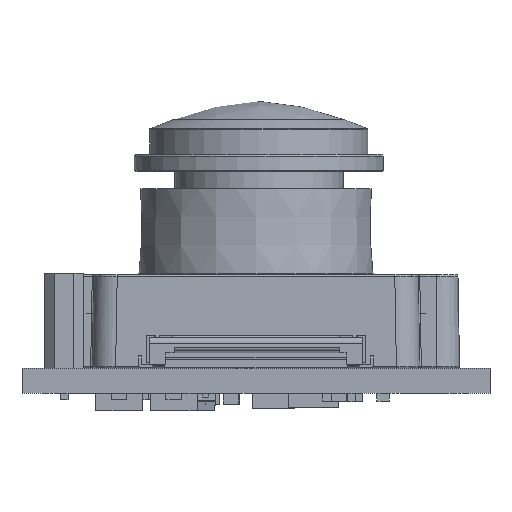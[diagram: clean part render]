
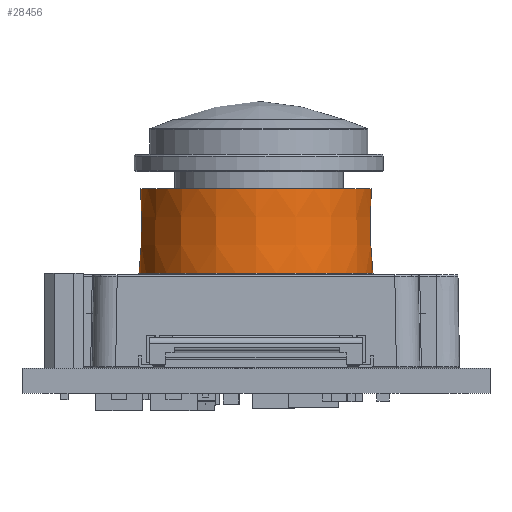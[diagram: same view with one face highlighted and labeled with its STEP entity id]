
A CAD part, front view. The second image highlights one B-rep face of the part: STEP entity #28456.
In plain terms, the highlighted conical face has half-angle 1 degrees and reference radius 7.5 mm.
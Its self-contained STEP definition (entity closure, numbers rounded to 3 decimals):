
#211=CONICAL_SURFACE('',#30750,7.5,0.017);
#876=CIRCLE('',#30684,7.498);
#877=CIRCLE('',#30685,7.498);
#918=CIRCLE('',#30751,7.404);
#1979=FACE_OUTER_BOUND('',#3592,.T.);
#3592=EDGE_LOOP('',(#20512,#20513,#20514,#20515,#20516));
#5615=LINE('',#43628,#9105);
#9105=VECTOR('',#34371,7.5);
#12384=VERTEX_POINT('',#43301);
#12385=VERTEX_POINT('',#43303);
#12450=VERTEX_POINT('',#43627);
#15394=EDGE_CURVE('',#12385,#12384,#876,.T.);
#15395=EDGE_CURVE('',#12384,#12385,#877,.T.);
#15460=EDGE_CURVE('',#12385,#12450,#5615,.T.);
#15461=EDGE_CURVE('',#12450,#12450,#918,.T.);
#20512=ORIENTED_EDGE('',*,*,#15395,.T.);
#20513=ORIENTED_EDGE('',*,*,#15460,.T.);
#20514=ORIENTED_EDGE('',*,*,#15461,.F.);
#20515=ORIENTED_EDGE('',*,*,#15460,.F.);
#20516=ORIENTED_EDGE('',*,*,#15394,.T.);
#28456=ADVANCED_FACE('',(#1979),#211,.T.);
#30684=AXIS2_PLACEMENT_3D('',#43304,#34237,#34238);
#30685=AXIS2_PLACEMENT_3D('',#43305,#34239,#34240);
#30750=AXIS2_PLACEMENT_3D('',#43626,#34369,#34370);
#30751=AXIS2_PLACEMENT_3D('',#43629,#34372,#34373);
#34237=DIRECTION('center_axis',(0.,0.,1.));
#34238=DIRECTION('ref_axis',(0.,-1.,0.));
#34239=DIRECTION('center_axis',(0.,0.,1.));
#34240=DIRECTION('ref_axis',(0.,-1.,0.));
#34369=DIRECTION('center_axis',(0.,0.,-1.));
#34370=DIRECTION('ref_axis',(0.,1.,0.));
#34371=DIRECTION('',(0.,0.017,1.));
#34372=DIRECTION('center_axis',(0.,0.,1.));
#34373=DIRECTION('ref_axis',(0.,1.,0.));
#43301=CARTESIAN_POINT('',(15.,25.948,6.098));
#43303=CARTESIAN_POINT('',(15.,10.952,6.098));
#43304=CARTESIAN_POINT('Origin',(15.,18.45,6.098));
#43305=CARTESIAN_POINT('Origin',(15.,18.45,6.098));
#43626=CARTESIAN_POINT('Origin',(15.,18.45,6.));
#43627=CARTESIAN_POINT('',(15.,11.046,11.5));
#43628=CARTESIAN_POINT('',(15.,10.95,6.));
#43629=CARTESIAN_POINT('Origin',(15.,18.45,11.5));
